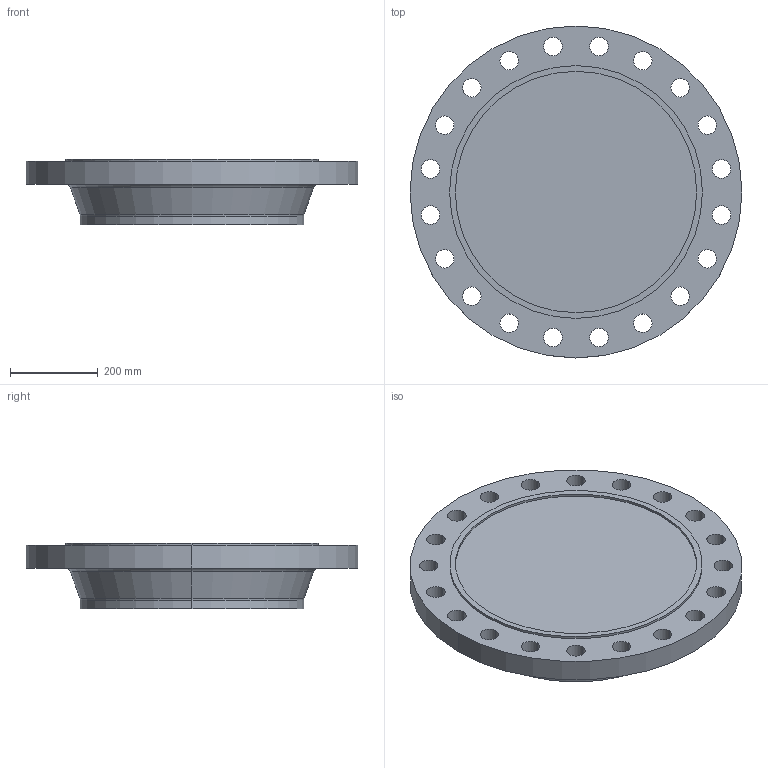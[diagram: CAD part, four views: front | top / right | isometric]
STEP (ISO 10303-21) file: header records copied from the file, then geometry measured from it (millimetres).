
FILE_DESCRIPTION (( 'STEP AP214' ), '1' );
FILE_NAME ('PN40 DN500 Type 21(ii) - Type C Face.STEP', '2018-12-29T04:23:06', ( '' ), ( '' ), 'SwSTEP 2.0', 'SolidWorks 2019', '' );
FILE_SCHEMA (( 'AUTOMOTIVE_DESIGN' ));
Length unit declared in the file: millimetre
Products named in the file (1): PN40 DN500 Type 21(ii) - Type C Face
Bounding box: 755 x 755 x 150 mm (x, y, z)
Volume: 42123714.2 mm3; surface area: 1232372.2 mm2
Topology: 1 solids, 1 shells, 59 faces, 156 edges, 102 vertices
Faces by surface type: cylinder 48, plane 5, torus 4, cone 2
Entity records: 2002 total; most frequent: DIRECTION 382, CARTESIAN_POINT 318, ORIENTED_EDGE 312, AXIS2_PLACEMENT_3D 166, EDGE_CURVE 156, CIRCLE 106, VERTEX_POINT 102, EDGE_LOOP 102
